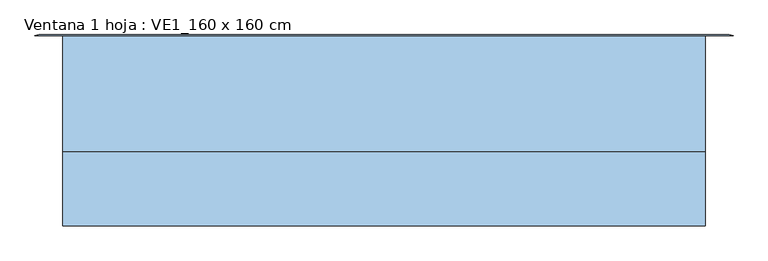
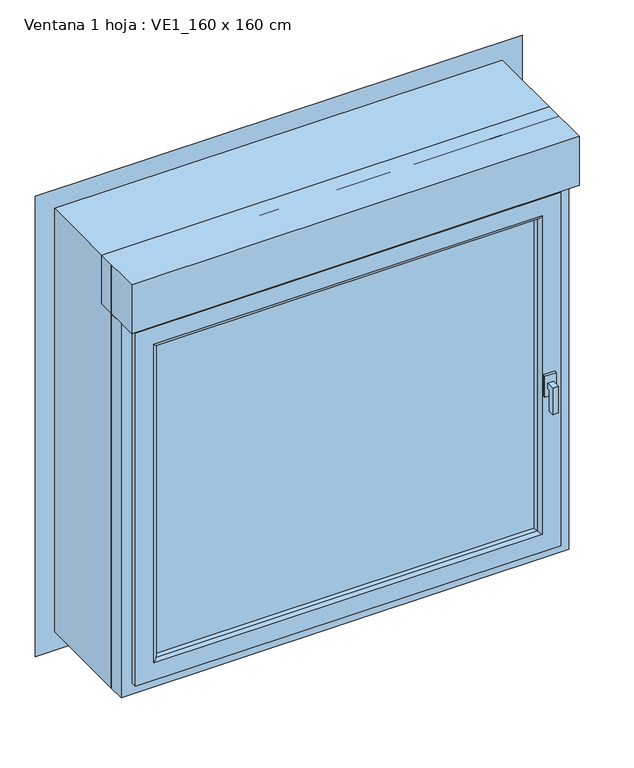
"""IFC4 building model written with IfcOpenShell, lengths in millimetres: window geometry, Ventana 1 hoja : VE1_160 x 160 cm."""

from ifc_helpers import new_model, si_unit, frame, origin, place, context, project, spatial, polyline, ellipse_curve, outline, extrude, source, transform, mapped, element, save
from ifc_brep_helpers import plane_surface, cylinder_surface, advanced_brep


def ventana_1_hoja_ve1_160_x_160_cm_969c779d(model_context):
    return source(origin(), model_context, "Body", "SolidModel", [
        extrude(outline(polyline([(-234.0, 1477.5), (-234.0, 1457.5), (-244.0, 1457.5), (-244.0, 1377.5), (-264.0, 1377.5), (-264.0, 1477.5), (-234.0, 1477.5)])), frame((708.5, 0.0, 0.0), z_axis=(1.0, 0.0, 0.0), x_axis=(0.0, 1.0, 0.0)), (0.0, 0.0, 1.0), 20.0),
        extrude(outline(polyline([(738.5, -234.0), (698.5, -234.0), (698.5, -224.0), (738.5, -224.0), (738.5, -234.0)])), frame((0.0, 0.0, 1427.5), z_axis=(0.0, 0.0, 1.0), x_axis=(1.0, 0.0, 0.0)), (0.0, 0.0, 1.0), 80.0),
        extrude(outline(polyline([(-699.0, -176.0), (699.0, -176.0), (699.0, -206.0), (-699.0, -206.0), (-699.0, -176.0)])), frame((0.0, 0.0, 901.0), z_axis=(0.0, 0.0, 1.0), x_axis=(1.0, 0.0, 0.0)), (0.0, 0.0, 1.0), 1213.0),
        advanced_brep(
        [(-738.0710678, -147.9289322, 2153.0710678), (-745.1421356, -145.0, 2160.1421356), (745.1421356, -145.0, 2160.1421356), (738.0710678, -147.9289322, 2153.0710678), (-731.6213203, -158.0, 2146.6213203), (731.6213203, -158.0, 2146.6213203), (-800.0, -145.0, 2215.0), (-800.0, -205.0, 2215.0), (800.0, -205.0, 2215.0), (800.0, -145.0, 2215.0), (745.1421356, -145.0, 854.8578644), (738.0710678, -147.9289322, 861.9289322), (731.6213203, -158.0, 868.3786797), (800.0, -205.0, 800.0), (800.0, -145.0, 800.0), (-745.1421356, -145.0, 854.8578644), (-738.0710678, -147.9289322, 861.9289322), (-731.6213203, -158.0, 868.3786797), (-800.0, -205.0, 800.0), (-800.0, -145.0, 800.0), (-694.4125193, -158.0, 2109.4125193), (-694.4125193, -158.0, 905.5874807), (694.4125193, -158.0, 905.5874807), (694.4125193, -158.0, 2109.4125193), (760.0, -205.0, 2175.0), (760.0, -205.0, 840.0), (-760.0, -205.0, 840.0), (-760.0, -205.0, 2175.0), (-681.6132918, -165.1782499, 2096.6132918), (681.6132918, -165.1782499, 2096.6132918), (-675.0, -176.0, 2090.0), (675.0, -176.0, 2090.0), (-699.0, -206.0, 2114.0), (-699.0, -176.0, 2114.0), (699.0, -176.0, 2114.0), (699.0, -206.0, 2114.0), (-760.0, -224.0, 2175.0), (760.0, -224.0, 2175.0), (681.6132918, -165.1782499, 918.3867082), (675.0, -176.0, 925.0), (699.0, -176.0, 901.0), (699.0, -206.0, 901.0), (760.0, -224.0, 840.0), (-681.6132918, -165.1782499, 918.3867082), (-675.0, -176.0, 925.0), (-699.0, -176.0, 901.0), (-699.0, -206.0, 901.0), (-760.0, -224.0, 840.0), (694.4125193, -224.0, 2109.4125193), (694.4125193, -224.0, 905.5874807), (-694.4125193, -224.0, 905.5874807), (-694.4125193, -224.0, 2109.4125193), (-681.6132918, -216.8217501, 2096.6132918), (-675.0, -206.0, 2090.0), (675.0, -206.0, 2090.0), (681.6132918, -216.8217501, 2096.6132918), (675.0, -206.0, 925.0), (681.6132918, -216.8217501, 918.3867082), (-675.0, -206.0, 925.0), (-681.6132918, -216.8217501, 918.3867082)],
        [
            (0, 1, ellipse_curve(frame((-745.1421356, -155.0, 2160.1421356), z_axis=(0.7071067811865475, 0.0, 0.7071067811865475), x_axis=(-0.7071067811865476, 0.0, 0.7071067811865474)), 14.1421356, 10.0)),
            (1, 2),
            (2, 3, ellipse_curve(frame((745.1421356, -155.0, 2160.1421356), z_axis=(-0.7071067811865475, 0.0, 0.7071067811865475), x_axis=(-0.7071067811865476, 0.0, -0.7071067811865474)), 14.1421356, 10.0)),
            (3, 0),
            (4, 0),
            (3, 5),
            (5, 4),
            (6, 7),
            (7, 8),
            (8, 9),
            (9, 6),
            (2, 10),
            (10, 11, ellipse_curve(frame((745.1421356, -155.0, 854.8578644), z_axis=(0.7071067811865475, 0.0, 0.7071067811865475), x_axis=(-0.7071067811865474, 0.0, 0.7071067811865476)), 14.1421356, 10.0)),
            (11, 3),
            (11, 12),
            (12, 5),
            (8, 13),
            (13, 14),
            (14, 9),
            (10, 15),
            (15, 16, ellipse_curve(frame((-745.1421356, -155.0, 854.8578644), z_axis=(0.7071067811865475, 0.0, -0.7071067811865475), x_axis=(0.7071067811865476, 0.0, 0.7071067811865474)), 14.1421356, 10.0)),
            (16, 11),
            (16, 17),
            (17, 12),
            (13, 18),
            (18, 19),
            (19, 14),
            (19, 6),
            (1, 15),
            (0, 16),
            (4, 17),
            (20, 21),
            (21, 22),
            (22, 23),
            (23, 20),
            (7, 18),
            (24, 25),
            (25, 26),
            (26, 27),
            (27, 24),
            (28, 20, ellipse_curve(frame((-694.4125193, -173.0, 2109.4125193), z_axis=(0.7071067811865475, 0.0, 0.7071067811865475), x_axis=(-0.7071067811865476, 0.0, 0.7071067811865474)), 21.2132034, 15.0)),
            (23, 29, ellipse_curve(frame((694.4125193, -173.0, 2109.4125193), z_axis=(-0.7071067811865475, 0.0, 0.7071067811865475), x_axis=(-0.7071067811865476, 0.0, -0.7071067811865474)), 21.2132034, 15.0)),
            (29, 28),
            (30, 28),
            (29, 31),
            (31, 30),
            (32, 33),
            (33, 34),
            (34, 35),
            (35, 32),
            (27, 36),
            (36, 37),
            (37, 24),
            (22, 38, ellipse_curve(frame((694.4125193, -173.0, 905.5874807), z_axis=(0.7071067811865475, 0.0, 0.7071067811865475), x_axis=(-0.7071067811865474, 0.0, 0.7071067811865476)), 21.2132034, 15.0)),
            (38, 29),
            (38, 39),
            (39, 31),
            (34, 40),
            (40, 41),
            (41, 35),
            (37, 42),
            (42, 25),
            (21, 43, ellipse_curve(frame((-694.4125193, -173.0, 905.5874807), z_axis=(0.7071067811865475, 0.0, -0.7071067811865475), x_axis=(0.7071067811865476, 0.0, 0.7071067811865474)), 21.2132034, 15.0)),
            (43, 38),
            (43, 44),
            (44, 39),
            (40, 45),
            (45, 46),
            (46, 41),
            (42, 47),
            (47, 26),
            (28, 43),
            (30, 44),
            (33, 45),
            (32, 46),
            (36, 47),
            (48, 49),
            (49, 50),
            (50, 51),
            (51, 48),
            (52, 53),
            (53, 54),
            (54, 55),
            (55, 52),
            (51, 52, ellipse_curve(frame((-694.4125193, -209.0, 2109.4125193), z_axis=(0.7071067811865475, 0.0, 0.7071067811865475), x_axis=(-0.7071067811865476, 0.0, 0.7071067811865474)), 21.2132034, 15.0)),
            (55, 48, ellipse_curve(frame((694.4125193, -209.0, 2109.4125193), z_axis=(-0.7071067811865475, 0.0, 0.7071067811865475), x_axis=(-0.7071067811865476, 0.0, -0.7071067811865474)), 21.2132034, 15.0)),
            (54, 56),
            (56, 57),
            (57, 55),
            (57, 49, ellipse_curve(frame((694.4125193, -209.0, 905.5874807), z_axis=(0.7071067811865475, 0.0, 0.7071067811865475), x_axis=(-0.7071067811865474, 0.0, 0.7071067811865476)), 21.2132034, 15.0)),
            (56, 58),
            (58, 59),
            (59, 57),
            (59, 50, ellipse_curve(frame((-694.4125193, -209.0, 905.5874807), z_axis=(0.7071067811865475, 0.0, -0.7071067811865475), x_axis=(0.7071067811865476, 0.0, 0.7071067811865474)), 21.2132034, 15.0)),
            (53, 58),
            (52, 59),
        ],
        [
            cylinder_surface(frame((-800.0, -155.0, 2160.1421356), z_axis=(-1.0000000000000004, 0.0, 0.0), x_axis=(0.0, 0.0, 1.0)), 10.0),
            plane_surface(frame((-738.0710678, -147.9289322, 2153.0710678), z_axis=(0.0, 0.5393066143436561, -0.8421094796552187), x_axis=(1.0, 0.0, 0.0))),
            plane_surface(frame((-800.0, -205.0, 2215.0), z_axis=(0.0, 0.0, 1.0), x_axis=(1.0, 0.0, 0.0))),
            cylinder_surface(frame((745.1421356, -155.0, 2215.0), z_axis=(0.0, 0.0, 1.0), x_axis=(1.0000000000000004, 0.0, 0.0)), 10.0),
            plane_surface(frame((738.0710678, -147.9289322, 2153.0710678), z_axis=(-0.8421094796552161, 0.5393066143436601, 0.0), x_axis=(0.0, 0.0, -1.0))),
            plane_surface(frame((800.0, -205.0, 2215.0), z_axis=(1.0, 0.0, 0.0), x_axis=(0.0, 0.0, -1.0))),
            cylinder_surface(frame((800.0, -155.0, 854.8578644), z_axis=(1.0000000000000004, 0.0, 0.0), x_axis=(0.0, 0.0, -1.0)), 10.0),
            plane_surface(frame((738.0710678, -147.9289322, 861.9289322), z_axis=(0.0, 0.5393066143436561, 0.8421094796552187), x_axis=(-1.0, 0.0, 0.0))),
            plane_surface(frame((800.0, -205.0, 800.0), z_axis=(0.0, 0.0, -1.0), x_axis=(-1.0, 0.0, 0.0))),
            plane_surface(frame((-800.0, -145.0, 800.0), z_axis=(0.0, 1.0, 0.0), x_axis=(0.0, 0.0, 1.0))),
            cylinder_surface(frame((-745.1421356, -155.0, 800.0), z_axis=(0.0, 0.0, -1.0), x_axis=(-1.0000000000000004, 0.0, 0.0)), 10.0),
            plane_surface(frame((-738.0710678, -147.9289322, 861.9289322), z_axis=(0.842109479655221, 0.5393066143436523, 0.0), x_axis=(0.0, 0.0, 1.0))),
            plane_surface(frame((-731.6213203, -158.0, 868.3786797), z_axis=(0.0, 1.0, 0.0), x_axis=(0.0, 0.0, 1.0))),
            plane_surface(frame((-760.0, -205.0, 840.0), z_axis=(0.0, -1.0, 0.0), x_axis=(0.0, 0.0, 1.0))),
            plane_surface(frame((-800.0, -205.0, 800.0), z_axis=(-1.0, 0.0, 0.0), x_axis=(0.0, 0.0, 1.0))),
            cylinder_surface(frame((-800.0, -173.0, 2109.4125193), z_axis=(-1.0000000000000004, 0.0, 0.0), x_axis=(0.0, 0.0, 1.0)), 15.0),
            plane_surface(frame((-681.6132918, -165.1782499, 2096.6132918), z_axis=(0.0, 0.5214500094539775, -0.8532818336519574), x_axis=(1.0, 0.0, 0.0))),
            plane_surface(frame((-699.0, -176.0, 2114.0), z_axis=(0.0, 0.0, -1.0), x_axis=(1.0, 0.0, 0.0))),
            plane_surface(frame((-760.0, -224.0, 2175.0), z_axis=(0.0, 0.0, 1.0), x_axis=(1.0, 0.0, 0.0))),
            cylinder_surface(frame((694.4125193, -173.0, 2215.0), z_axis=(0.0, 0.0, 1.0), x_axis=(1.0000000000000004, 0.0, 0.0)), 15.0),
            plane_surface(frame((681.6132918, -165.1782499, 2096.6132918), z_axis=(-0.853281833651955, 0.5214500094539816, 0.0), x_axis=(0.0, 0.0, -1.0))),
            plane_surface(frame((699.0, -176.0, 2114.0), z_axis=(-1.0, 0.0, 0.0), x_axis=(0.0, 0.0, -1.0))),
            plane_surface(frame((760.0, -224.0, 2175.0), z_axis=(1.0, 0.0, 0.0), x_axis=(0.0, 0.0, -1.0))),
            cylinder_surface(frame((800.0, -173.0, 905.5874807), z_axis=(1.0000000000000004, 0.0, 0.0), x_axis=(0.0, 0.0, -1.0)), 15.0),
            plane_surface(frame((681.6132918, -165.1782499, 918.3867082), z_axis=(0.0, 0.5214500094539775, 0.8532818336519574), x_axis=(-1.0, 0.0, 0.0))),
            plane_surface(frame((699.0, -176.0, 901.0), z_axis=(0.0, 0.0, 1.0), x_axis=(-1.0, 0.0, 0.0))),
            plane_surface(frame((760.0, -224.0, 840.0), z_axis=(0.0, 0.0, -1.0), x_axis=(-1.0, 0.0, 0.0))),
            cylinder_surface(frame((-694.4125193, -173.0, 800.0), z_axis=(0.0, 0.0, -1.0), x_axis=(-1.0000000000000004, 0.0, 0.0)), 15.0),
            plane_surface(frame((-681.6132918, -165.1782499, 918.3867082), z_axis=(0.8532818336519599, 0.5214500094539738, 0.0), x_axis=(0.0, 0.0, 1.0))),
            plane_surface(frame((-675.0, -176.0, 925.0), z_axis=(0.0, -1.0, 0.0), x_axis=(0.0, 0.0, 1.0))),
            plane_surface(frame((-699.0, -176.0, 901.0), z_axis=(1.0, 0.0, 0.0), x_axis=(0.0, 0.0, 1.0))),
            plane_surface(frame((-694.4125193, -224.0, 905.5874807), z_axis=(0.0, -1.0, 0.0), x_axis=(0.0, 0.0, 1.0))),
            plane_surface(frame((-760.0, -224.0, 840.0), z_axis=(-1.0, 0.0, 0.0), x_axis=(0.0, 0.0, 1.0))),
            plane_surface(frame((-675.0, -206.0, 2090.0), z_axis=(0.0, -0.5214500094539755, -0.8532818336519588), x_axis=(1.0, 0.0, 0.0))),
            cylinder_surface(frame((-800.0, -209.0, 2109.4125193), z_axis=(-1.0000000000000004, 0.0, 0.0), x_axis=(0.0, 0.0, 1.0)), 15.0),
            plane_surface(frame((675.0, -206.0, 2090.0), z_axis=(-0.8532818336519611, -0.5214500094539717, 0.0), x_axis=(0.0, 0.0, -1.0))),
            cylinder_surface(frame((694.4125193, -209.0, 2215.0), z_axis=(0.0, 0.0, 1.0), x_axis=(1.0000000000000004, 0.0, 0.0)), 15.0),
            plane_surface(frame((675.0, -206.0, 925.0), z_axis=(0.0, -0.5214500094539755, 0.8532818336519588), x_axis=(-1.0, 0.0, 0.0))),
            cylinder_surface(frame((800.0, -209.0, 905.5874807), z_axis=(1.0000000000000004, 0.0, 0.0), x_axis=(0.0, 0.0, -1.0)), 15.0),
            plane_surface(frame((-699.0, -206.0, 901.0), z_axis=(0.0, 1.0, 0.0), x_axis=(0.0, 0.0, 1.0))),
            plane_surface(frame((-675.0, -206.0, 925.0), z_axis=(0.8532818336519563, -0.5214500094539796, 0.0), x_axis=(0.0, 0.0, 1.0))),
            cylinder_surface(frame((-694.4125193, -209.0, 800.0), z_axis=(0.0, 0.0, -1.0), x_axis=(-1.0000000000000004, 0.0, 0.0)), 15.0),
        ],
        [
            (0, [[1, 2, 3, 4]]),
            (1, [[5, -4, 6, 7]]),
            (2, [[8, 9, 10, 11]]),
            (3, [[-3, 12, 13, 14]]),
            (4, [[-6, -14, 15, 16]]),
            (5, [[-10, 17, 18, 19]]),
            (6, [[-13, 20, 21, 22]]),
            (7, [[-15, -22, 23, 24]]),
            (8, [[-18, 25, 26, 27]]),
            (9, [[-19, -27, 28, -11], [29, -20, -12, -2]]),
            (10, [[-21, -29, -1, 30]]),
            (11, [[-23, -30, -5, 31]]),
            (12, [[-16, -24, -31, -7], [32, 33, 34, 35]]),
            (13, [[36, -25, -17, -9], [37, 38, 39, 40]]),
            (14, [[-26, -36, -8, -28]]),
            (15, [[41, -35, 42, 43]]),
            (16, [[44, -43, 45, 46]]),
            (17, [[47, 48, 49, 50]]),
            (18, [[51, 52, 53, -40]]),
            (19, [[-42, -34, 54, 55]]),
            (20, [[-45, -55, 56, 57]]),
            (21, [[-49, 58, 59, 60]]),
            (22, [[-53, 61, 62, -37]]),
            (23, [[-54, -33, 63, 64]]),
            (24, [[-56, -64, 65, 66]]),
            (25, [[-59, 67, 68, 69]]),
            (26, [[-62, 70, 71, -38]]),
            (27, [[-63, -32, -41, 72]]),
            (28, [[-65, -72, -44, 73]]),
            (29, [[74, -67, -58, -48], [-57, -66, -73, -46]]),
            (30, [[-68, -74, -47, 75]]),
            (31, [[76, -70, -61, -52], [77, 78, 79, 80]]),
            (32, [[-71, -76, -51, -39]]),
            (33, [[81, 82, 83, 84]]),
            (34, [[85, -84, 86, -80]]),
            (35, [[-83, 87, 88, 89]]),
            (36, [[-86, -89, 90, -77]]),
            (37, [[-88, 91, 92, 93]]),
            (38, [[-90, -93, 94, -78]]),
            (39, [[-60, -69, -75, -50], [95, -91, -87, -82]]),
            (40, [[-92, -95, -81, 96]]),
            (41, [[-94, -96, -85, -79]]),
        ],
    ),
        extrude(outline(polyline([(-800.0, -269.96), (-800.0, -84.98), (800.0, -84.98), (800.0, -269.96), (-800.0, -269.96)])), frame((0.0, 0.0, 2215.0), z_axis=(0.0, 0.0, 1.0), x_axis=(1.0, 0.0, 0.0)), (0.0, 0.0, 1.0), 185.0),
        advanced_brep(
        [(-870.0, 205.0, 2470.0), (-860.0, 207.0119424, 2460.0), (-860.0, 207.0119424, 740.0), (-870.0, 205.0, 730.0), (860.0, 207.0119424, 2460.0), (860.0, 207.0119424, 740.0), (-798.0, 207.0119424, 2398.0), (-798.0, 207.0119424, 802.0), (798.0, 207.0119424, 802.0), (798.0, 207.0119424, 2398.0), (870.0, 205.0, 730.0), (870.0, 205.0, 2470.0), (800.0, 205.0, 2400.0), (800.0, 205.0, 800.0), (-800.0, 205.0, 800.0), (-800.0, 205.0, 2400.0), (-798.0, -145.0, 2398.0), (-798.0, -145.0, 802.0), (798.0, -145.0, 802.0), (798.0, -145.0, 2398.0), (800.0, -145.0, 800.0), (800.0, -145.0, 2400.0), (-800.0, -145.0, 800.0), (-800.0, -145.0, 2400.0)],
        [
            (0, 1, ellipse_curve(frame((-860.0, 181.1543647, 2460.0), z_axis=(-0.7071067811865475, 0.0, -0.7071067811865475), x_axis=(-0.7071067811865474, 0.0, 0.7071067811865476)), 36.568137, 25.8575776)),
            (1, 2),
            (2, 3, ellipse_curve(frame((-860.0, 181.1543647, 740.0), z_axis=(-0.7071067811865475, 0.0, 0.7071067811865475), x_axis=(0.7071067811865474, 0.0, 0.7071067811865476)), 36.568137, 25.8575776)),
            (3, 0),
            (4, 5),
            (5, 2),
            (1, 4),
            (6, 7),
            (7, 8),
            (8, 9),
            (9, 6),
            (5, 10, ellipse_curve(frame((860.0, 181.1543647, 740.0), z_axis=(-0.7071067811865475, 0.0, -0.7071067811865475), x_axis=(-0.7071067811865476, 0.0, 0.7071067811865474)), 36.568137, 25.8575776)),
            (10, 3),
            (10, 11),
            (11, 0),
            (12, 13),
            (13, 14),
            (14, 15),
            (15, 12),
            (4, 11, ellipse_curve(frame((860.0, 181.1543647, 2460.0), z_axis=(0.7071067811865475, 0.0, -0.7071067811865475), x_axis=(-0.7071067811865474, 0.0, -0.7071067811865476)), 36.568137, 25.8575776)),
            (6, 16),
            (16, 17),
            (17, 7),
            (17, 18),
            (18, 8),
            (18, 19),
            (19, 9),
            (20, 13),
            (12, 21),
            (21, 20),
            (22, 14),
            (20, 22),
            (23, 15),
            (22, 23),
            (21, 23),
            (16, 19),
        ],
        [
            cylinder_surface(frame((-860.0, 181.1543647, 2400.0), z_axis=(0.0, 0.0, 1.0), x_axis=(0.0, 1.0, 0.0)), 25.8575776),
            plane_surface(frame((798.0, 207.0119424, 802.0), z_axis=(0.0, 1.0, 0.0), x_axis=(0.0, 0.0, 1.0))),
            cylinder_surface(frame((-800.0, 181.1543647, 740.0), z_axis=(-1.0, 0.0, 0.0), x_axis=(0.0, 1.0, 0.0)), 25.8575776),
            plane_surface(frame((870.0, 205.0, 730.0), z_axis=(0.0, -1.0, 0.0), x_axis=(0.0, 0.0, 1.0))),
            cylinder_surface(frame((860.0, 181.1543647, 800.0), z_axis=(0.0, 0.0, -1.0), x_axis=(0.0, 1.0, 0.0)), 25.8575776),
            plane_surface(frame((-798.0, -145.0, 2398.0), z_axis=(1.0, 0.0, 0.0), x_axis=(0.0, 0.0, -1.0))),
            plane_surface(frame((-798.0, -145.0, 802.0), z_axis=(0.0, 0.0, 1.0), x_axis=(1.0, 0.0, 0.0))),
            plane_surface(frame((798.0, -145.0, 802.0), z_axis=(-1.0, 0.0, 0.0), x_axis=(0.0, 0.0, 1.0))),
            plane_surface(frame((800.0, 205.0, 800.0), z_axis=(1.0, 0.0, 0.0), x_axis=(0.0, 0.0, 1.0))),
            plane_surface(frame((-800.0, 205.0, 800.0), z_axis=(0.0, 0.0, -1.0), x_axis=(1.0, 0.0, 0.0))),
            plane_surface(frame((-800.0, 205.0, 2400.0), z_axis=(-1.0, 0.0, 0.0), x_axis=(0.0, 0.0, -1.0))),
            plane_surface(frame((800.0, -145.0, 800.0), z_axis=(0.0, -1.0, 0.0), x_axis=(0.0, 0.0, 1.0))),
            cylinder_surface(frame((800.0, 181.1543647, 2460.0), z_axis=(1.0, 0.0, 0.0), x_axis=(0.0, 1.0, 0.0)), 25.8575776),
            plane_surface(frame((800.0, 205.0, 2400.0), z_axis=(0.0, 0.0, 1.0), x_axis=(-1.0, 0.0, 0.0))),
            plane_surface(frame((798.0, -145.0, 2398.0), z_axis=(0.0, 0.0, -1.0), x_axis=(-1.0, 0.0, 0.0))),
        ],
        [
            (0, [[1, 2, 3, 4]]),
            (1, [[5, 6, -2, 7], [8, 9, 10, 11]]),
            (2, [[-3, -6, 12, 13]]),
            (3, [[-4, -13, 14, 15], [16, 17, 18, 19]]),
            (4, [[-12, -5, 20, -14]]),
            (5, [[21, 22, 23, -8]]),
            (6, [[-23, 24, 25, -9]]),
            (7, [[-25, 26, 27, -10]]),
            (8, [[28, -16, 29, 30]]),
            (9, [[31, -17, -28, 32]]),
            (10, [[33, -18, -31, 34]]),
            (11, [[-34, -32, -30, 35], [-26, -24, -22, 36]]),
            (12, [[-20, -7, -1, -15]]),
            (13, [[-29, -19, -33, -35]]),
            (14, [[-27, -36, -21, -11]]),
        ],
    ),
    ])


if __name__ == "__main__":
    model = new_model("IFC4")
    model_context = context("Model", 3, world=origin())
    ifc_project = project(units=[si_unit("LENGTHUNIT", "METRE", prefix="MILLI")], contexts=[model_context])
    site = spatial("IfcSite", under=ifc_project)
    building = spatial("IfcBuilding", under=site)
    placement = place(None, origin())
    ventana_1_hoja_ve1_160_x_160_cm_shape = ventana_1_hoja_ve1_160_x_160_cm_969c779d(model_context)
    element("IfcWindow", 1, ObjectType="Ventana 1 hoja : VE1_160 x 160 cm", at=placement, inside=building, context=model_context, shape_type="MappedRepresentation", body=[
        mapped(ventana_1_hoja_ve1_160_x_160_cm_shape, transform((0.0, 0.0, 0.0), x_axis=(1.0, 0.0, 0.0), y_axis=(0.0, 1.0, 0.0), z_axis=(0.0, 0.0, 1.0))),
    ])
    save(model, "model.ifc")
